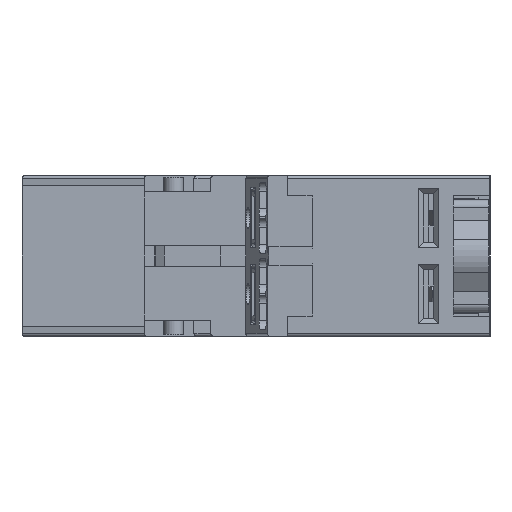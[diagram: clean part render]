
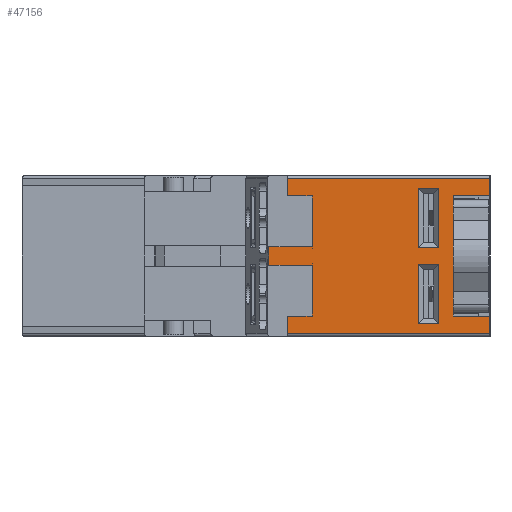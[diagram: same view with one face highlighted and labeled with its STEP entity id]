
A CAD part, left-side view. The second image highlights one B-rep face of the part: STEP entity #47156.
In plain terms, the highlighted planar face has unit normal (-1, 0, 0).
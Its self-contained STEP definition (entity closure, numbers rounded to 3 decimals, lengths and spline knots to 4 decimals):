
#385=FACE_BOUND('',#6081,.T.);
#386=FACE_BOUND('',#6082,.T.);
#3559=FACE_OUTER_BOUND('',#6080,.T.);
#6080=EDGE_LOOP('',(#37053,#37054,#37055,#37056,#37057,#37058,#37059,#37060,
#37061,#37062,#37063,#37064,#37065,#37066,#37067,#37068,#37069,#37070,#37071,
#37072));
#6081=EDGE_LOOP('',(#37073,#37074,#37075,#37076));
#6082=EDGE_LOOP('',(#37077,#37078,#37079,#37080));
#7809=LINE('',#65804,#13160);
#7814=LINE('',#65815,#13165);
#7936=LINE('',#66092,#13287);
#7941=LINE('',#66101,#13292);
#7942=LINE('',#66103,#13293);
#10090=LINE('',#70709,#15441);
#10093=LINE('',#70714,#15444);
#11111=LINE('',#74073,#16462);
#11116=LINE('',#74084,#16467);
#11117=LINE('',#74087,#16468);
#11120=LINE('',#74092,#16471);
#11121=LINE('',#74094,#16472);
#11122=LINE('',#74096,#16473);
#11123=LINE('',#74097,#16474);
#11124=LINE('',#74099,#16475);
#11125=LINE('',#74101,#16476);
#11126=LINE('',#74103,#16477);
#11127=LINE('',#74105,#16478);
#11128=LINE('',#74107,#16479);
#11129=LINE('',#74108,#16480);
#11130=LINE('',#74111,#16481);
#11131=LINE('',#74113,#16482);
#11132=LINE('',#74115,#16483);
#11133=LINE('',#74116,#16484);
#11134=LINE('',#74119,#16485);
#11135=LINE('',#74121,#16486);
#11136=LINE('',#74123,#16487);
#11137=LINE('',#74124,#16488);
#13160=VECTOR('',#53272,0.205);
#13165=VECTOR('',#53279,0.205);
#13287=VECTOR('',#53529,0.035);
#13292=VECTOR('',#53536,0.035);
#13293=VECTOR('',#53539,0.7);
#15441=VECTOR('',#57553,0.17);
#15444=VECTOR('',#57556,0.17);
#16462=VECTOR('',#59978,0.17);
#16467=VECTOR('',#59987,0.17);
#16468=VECTOR('',#59990,0.24);
#16471=VECTOR('',#59995,1.9886);
#16472=VECTOR('',#59998,1.9886);
#16473=VECTOR('',#60001,0.36);
#16474=VECTOR('',#60002,0.36);
#16475=VECTOR('',#60003,0.24);
#16476=VECTOR('',#60004,0.5);
#16477=VECTOR('',#60005,0.424);
#16478=VECTOR('',#60006,0.18);
#16479=VECTOR('',#60007,0.424);
#16480=VECTOR('',#60008,0.5);
#16481=VECTOR('',#60009,0.2);
#16482=VECTOR('',#60010,0.58);
#16483=VECTOR('',#60011,0.2);
#16484=VECTOR('',#60012,0.58);
#16485=VECTOR('',#60013,0.2);
#16486=VECTOR('',#60014,0.58);
#16487=VECTOR('',#60015,0.2);
#16488=VECTOR('',#60016,0.58);
#18330=VERTEX_POINT('',#65758);
#18347=VERTEX_POINT('',#65802);
#18348=VERTEX_POINT('',#65803);
#18353=VERTEX_POINT('',#65813);
#18444=VERTEX_POINT('',#66091);
#18447=VERTEX_POINT('',#66099);
#19971=VERTEX_POINT('',#70706);
#19972=VERTEX_POINT('',#70708);
#19973=VERTEX_POINT('',#70711);
#19974=VERTEX_POINT('',#70713);
#21000=VERTEX_POINT('',#74070);
#21001=VERTEX_POINT('',#74072);
#21003=VERTEX_POINT('',#74078);
#21005=VERTEX_POINT('',#74082);
#21006=VERTEX_POINT('',#74086);
#21008=VERTEX_POINT('',#74098);
#21009=VERTEX_POINT('',#74100);
#21010=VERTEX_POINT('',#74102);
#21011=VERTEX_POINT('',#74104);
#21012=VERTEX_POINT('',#74106);
#21013=VERTEX_POINT('',#74109);
#21014=VERTEX_POINT('',#74110);
#21015=VERTEX_POINT('',#74112);
#21016=VERTEX_POINT('',#74114);
#21017=VERTEX_POINT('',#74117);
#21018=VERTEX_POINT('',#74118);
#21019=VERTEX_POINT('',#74120);
#21020=VERTEX_POINT('',#74122);
#22814=EDGE_CURVE('',#18347,#18348,#7809,.T.);
#22820=EDGE_CURVE('',#18330,#18353,#7814,.T.);
#22961=EDGE_CURVE('',#18444,#18330,#7936,.T.);
#22966=EDGE_CURVE('',#18348,#18447,#7941,.T.);
#22967=EDGE_CURVE('',#18353,#18347,#7942,.T.);
#25253=EDGE_CURVE('',#19971,#19972,#10090,.T.);
#25256=EDGE_CURVE('',#19973,#19974,#10093,.T.);
#26670=EDGE_CURVE('',#21001,#21000,#11111,.T.);
#26676=EDGE_CURVE('',#21003,#21005,#11116,.T.);
#26677=EDGE_CURVE('',#21006,#21001,#11117,.T.);
#26680=EDGE_CURVE('',#19974,#21000,#11120,.T.);
#26681=EDGE_CURVE('',#21003,#19971,#11121,.T.);
#26682=EDGE_CURVE('',#19973,#18444,#11122,.T.);
#26683=EDGE_CURVE('',#18447,#19972,#11123,.T.);
#26684=EDGE_CURVE('',#21005,#21008,#11124,.T.);
#26685=EDGE_CURVE('',#21008,#21009,#11125,.T.);
#26686=EDGE_CURVE('',#21009,#21010,#11126,.T.);
#26687=EDGE_CURVE('',#21010,#21011,#11127,.T.);
#26688=EDGE_CURVE('',#21011,#21012,#11128,.T.);
#26689=EDGE_CURVE('',#21012,#21006,#11129,.T.);
#26690=EDGE_CURVE('',#21013,#21014,#11130,.T.);
#26691=EDGE_CURVE('',#21015,#21013,#11131,.T.);
#26692=EDGE_CURVE('',#21016,#21015,#11132,.T.);
#26693=EDGE_CURVE('',#21014,#21016,#11133,.T.);
#26694=EDGE_CURVE('',#21017,#21018,#11134,.T.);
#26695=EDGE_CURVE('',#21019,#21017,#11135,.T.);
#26696=EDGE_CURVE('',#21020,#21019,#11136,.T.);
#26697=EDGE_CURVE('',#21018,#21020,#11137,.T.);
#37053=ORIENTED_EDGE('',*,*,#26670,.T.);
#37054=ORIENTED_EDGE('',*,*,#26680,.F.);
#37055=ORIENTED_EDGE('',*,*,#25256,.F.);
#37056=ORIENTED_EDGE('',*,*,#26682,.T.);
#37057=ORIENTED_EDGE('',*,*,#22961,.T.);
#37058=ORIENTED_EDGE('',*,*,#22820,.T.);
#37059=ORIENTED_EDGE('',*,*,#22967,.T.);
#37060=ORIENTED_EDGE('',*,*,#22814,.T.);
#37061=ORIENTED_EDGE('',*,*,#22966,.T.);
#37062=ORIENTED_EDGE('',*,*,#26683,.T.);
#37063=ORIENTED_EDGE('',*,*,#25253,.F.);
#37064=ORIENTED_EDGE('',*,*,#26681,.F.);
#37065=ORIENTED_EDGE('',*,*,#26676,.T.);
#37066=ORIENTED_EDGE('',*,*,#26684,.T.);
#37067=ORIENTED_EDGE('',*,*,#26685,.T.);
#37068=ORIENTED_EDGE('',*,*,#26686,.T.);
#37069=ORIENTED_EDGE('',*,*,#26687,.T.);
#37070=ORIENTED_EDGE('',*,*,#26688,.T.);
#37071=ORIENTED_EDGE('',*,*,#26689,.T.);
#37072=ORIENTED_EDGE('',*,*,#26677,.T.);
#37073=ORIENTED_EDGE('',*,*,#26690,.F.);
#37074=ORIENTED_EDGE('',*,*,#26691,.F.);
#37075=ORIENTED_EDGE('',*,*,#26692,.F.);
#37076=ORIENTED_EDGE('',*,*,#26693,.F.);
#37077=ORIENTED_EDGE('',*,*,#26694,.F.);
#37078=ORIENTED_EDGE('',*,*,#26695,.F.);
#37079=ORIENTED_EDGE('',*,*,#26696,.F.);
#37080=ORIENTED_EDGE('',*,*,#26697,.F.);
#42638=PLANE('',#50227);
#47156=ADVANCED_FACE('',(#3559,#385,#386),#42638,.T.);
#50227=AXIS2_PLACEMENT_3D('',#74095,#59999,#60000);
#53272=DIRECTION('',(0.,0.,1.));
#53279=DIRECTION('',(0.,0.,1.));
#53529=DIRECTION('',(0.,0.,1.));
#53536=DIRECTION('',(0.,0.,1.));
#53539=DIRECTION('',(0.,0.,1.));
#57553=DIRECTION('',(0.,0.,-1.));
#57556=DIRECTION('',(0.,0.,-1.));
#59978=DIRECTION('',(0.,0.,-1.));
#59987=DIRECTION('',(0.,0.,-1.));
#59990=DIRECTION('',(0.,1.,0.));
#59995=DIRECTION('',(0.,1.,0.));
#59998=DIRECTION('',(0.,-1.,0.));
#59999=DIRECTION('center_axis',(-1.,0.,0.));
#60000=DIRECTION('ref_axis',(0.,1.,0.));
#60001=DIRECTION('',(0.,1.,0.));
#60002=DIRECTION('',(0.,-1.,0.));
#60003=DIRECTION('',(0.,-1.,0.));
#60004=DIRECTION('',(0.,0.,-1.));
#60005=DIRECTION('',(0.,1.,0.));
#60006=DIRECTION('',(0.,0.,-1.));
#60007=DIRECTION('',(0.,-1.,0.));
#60008=DIRECTION('',(0.,0.,-1.));
#60009=DIRECTION('',(0.,-1.,0.));
#60010=DIRECTION('',(0.,0.,-1.));
#60011=DIRECTION('',(0.,1.,0.));
#60012=DIRECTION('',(0.,0.,1.));
#60013=DIRECTION('',(0.,-1.,0.));
#60014=DIRECTION('',(0.,0.,-1.));
#60015=DIRECTION('',(0.,1.,0.));
#60016=DIRECTION('',(0.,0.,1.));
#65758=CARTESIAN_POINT('',(0.,0.96,-0.555));
#65802=CARTESIAN_POINT('',(0.,0.96,0.35));
#65803=CARTESIAN_POINT('',(0.,0.96,0.555));
#65804=CARTESIAN_POINT('',(0.,0.96,0.1));
#65813=CARTESIAN_POINT('',(0.,0.96,-0.35));
#65815=CARTESIAN_POINT('',(0.,0.96,0.1));
#66091=CARTESIAN_POINT('',(0.,0.96,-0.59));
#66092=CARTESIAN_POINT('',(0.,0.96,0.1));
#66099=CARTESIAN_POINT('',(0.,0.96,0.59));
#66101=CARTESIAN_POINT('',(0.,0.96,0.1));
#66103=CARTESIAN_POINT('',(0.,0.96,0.1));
#70706=CARTESIAN_POINT('',(0.,0.6,0.76));
#70708=CARTESIAN_POINT('',(0.,0.6,0.59));
#70709=CARTESIAN_POINT('',(0.,0.6,0.79));
#70711=CARTESIAN_POINT('',(0.,0.6,-0.59));
#70713=CARTESIAN_POINT('',(0.,0.6,-0.76));
#70714=CARTESIAN_POINT('',(0.,0.6,0.79));
#74070=CARTESIAN_POINT('',(0.,2.5886,-0.76));
#74072=CARTESIAN_POINT('',(0.,2.5886,-0.59));
#74073=CARTESIAN_POINT('',(0.,2.5886,0.0521));
#74078=CARTESIAN_POINT('',(0.,2.5886,0.76));
#74082=CARTESIAN_POINT('',(0.,2.5886,0.59));
#74084=CARTESIAN_POINT('',(0.,2.5886,0.7379));
#74086=CARTESIAN_POINT('',(0.,2.3486,-0.59));
#74087=CARTESIAN_POINT('',(0.,1.6993,-0.59));
#74092=CARTESIAN_POINT('',(0.,1.7136,-0.76));
#74094=CARTESIAN_POINT('',(0.,1.7136,0.76));
#74095=CARTESIAN_POINT('Origin',(0.,0.6,
0.79));
#74096=CARTESIAN_POINT('',(0.,0.6,-0.59));
#74097=CARTESIAN_POINT('',(0.,0.78,0.59));
#74098=CARTESIAN_POINT('',(0.,2.3486,0.59));
#74099=CARTESIAN_POINT('',(0.,1.6993,0.59));
#74100=CARTESIAN_POINT('',(0.,2.3486,0.09));
#74101=CARTESIAN_POINT('',(0.,2.3486,0.5558));
#74102=CARTESIAN_POINT('',(0.,2.7725,0.09));
#74103=CARTESIAN_POINT('',(0.,1.6993,0.09));
#74104=CARTESIAN_POINT('',(0.,2.7725,-0.09));
#74105=CARTESIAN_POINT('',(0.,2.7725,0.79));
#74106=CARTESIAN_POINT('',(0.,2.3486,-0.09));
#74107=CARTESIAN_POINT('',(0.,1.6993,-0.09));
#74108=CARTESIAN_POINT('',(0.,2.3486,0.2342));
#74109=CARTESIAN_POINT('',(0.,1.305,0.085));
#74110=CARTESIAN_POINT('',(0.,1.105,0.085));
#74111=CARTESIAN_POINT('',(0.,0.8775,0.085));
#74112=CARTESIAN_POINT('',(0.,1.305,0.665));
#74113=CARTESIAN_POINT('',(0.,1.305,0.4625));
#74114=CARTESIAN_POINT('',(0.,1.105,0.665));
#74115=CARTESIAN_POINT('',(0.,0.9275,0.665));
#74116=CARTESIAN_POINT('',(0.,1.105,0.7025));
#74117=CARTESIAN_POINT('',(0.,1.305,-0.665));
#74118=CARTESIAN_POINT('',(0.,1.105,-0.665));
#74119=CARTESIAN_POINT('',(0.,0.8775,-0.665));
#74120=CARTESIAN_POINT('',(0.,1.305,-0.085));
#74121=CARTESIAN_POINT('',(0.,1.305,0.0875));
#74122=CARTESIAN_POINT('',(0.,1.105,-0.085));
#74123=CARTESIAN_POINT('',(0.,0.9275,-0.085));
#74124=CARTESIAN_POINT('',(0.,1.105,0.3275));
